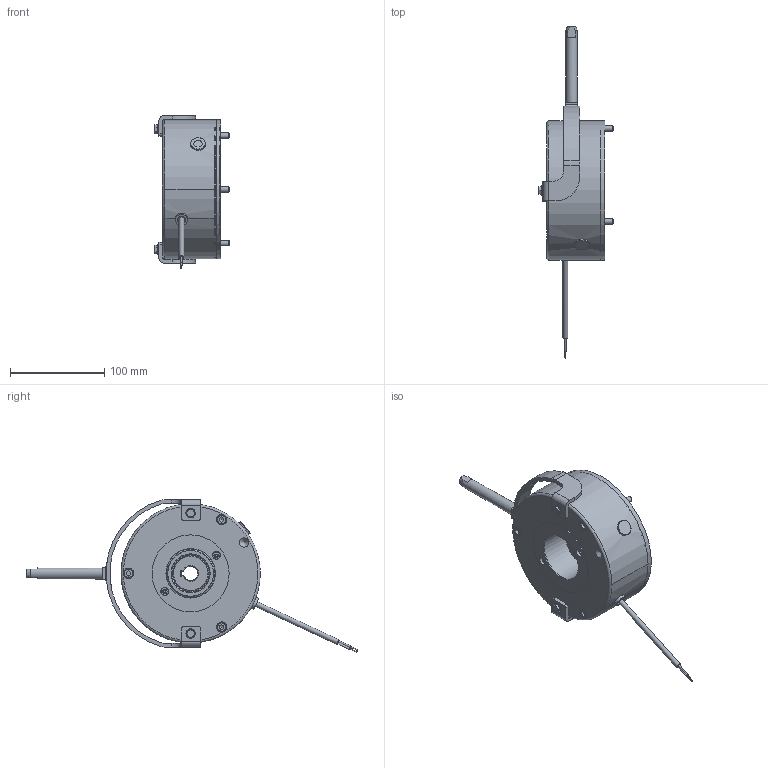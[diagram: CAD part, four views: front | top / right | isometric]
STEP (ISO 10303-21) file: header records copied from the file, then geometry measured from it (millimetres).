
FILE_DESCRIPTION(/* description */ (''),/* implementation_level */ '2;1');
FILE_NAME(/* name */ 'C:\SapWorkDir\Inventor\IP1\ConvertTempPath\5028782_IPT_000.ipt.stp',/* time_stamp */ '2020-09-17T15:03:26+02:00',/* author */ ('STRATE'),/* organization */ (''),/* preprocessor_version */ 'ST-DEVELOPER v17',/* originating_system */ 'Autodesk Inventor 2018',/* authorisation */ '');
FILE_SCHEMA (('AUTOMOTIVE_DESIGN { 1 0 10303 214 3 1 1 }'));
Length unit declared in the file: millimetre
Products named in the file (1): 5028782
Bounding box: 79.5 x 352.95 x 162.61 mm (x, y, z)
Volume: 769980.6 mm3; surface area: 173030.5 mm2
Topology: 4 solids, 4 shells, 545 faces, 1483 edges, 997 vertices
Faces by surface type: cylinder 327, plane 152, cone 43, torus 23
Full cylindrical faces by diameter (mm): 0.01 x1, 1 x2, 1.85 x2, 5 x2, 5.3 x3, 6 x5, 6.2 x3, 6.5 x5, 6.6 x4, 6.88 x2, 8 x1, 8.376 x2, 9.2 x2, 9.9 x3, 10 x6, 11 x3, 12 x1, 13.2 x1, 16 x1, 52 x2, 69.5 x2, 82 x1, 115 x1, 140 x1, 146.2 x2, 148 x1
Entity records: 19089 total; most frequent: CARTESIAN_POINT 4598, ORIENTED_EDGE 2966, DIRECTION 2859, EDGE_CURVE 1483, AXIS2_PLACEMENT_3D 1155, VERTEX_POINT 997, EDGE_LOOP 622, CIRCLE 609
